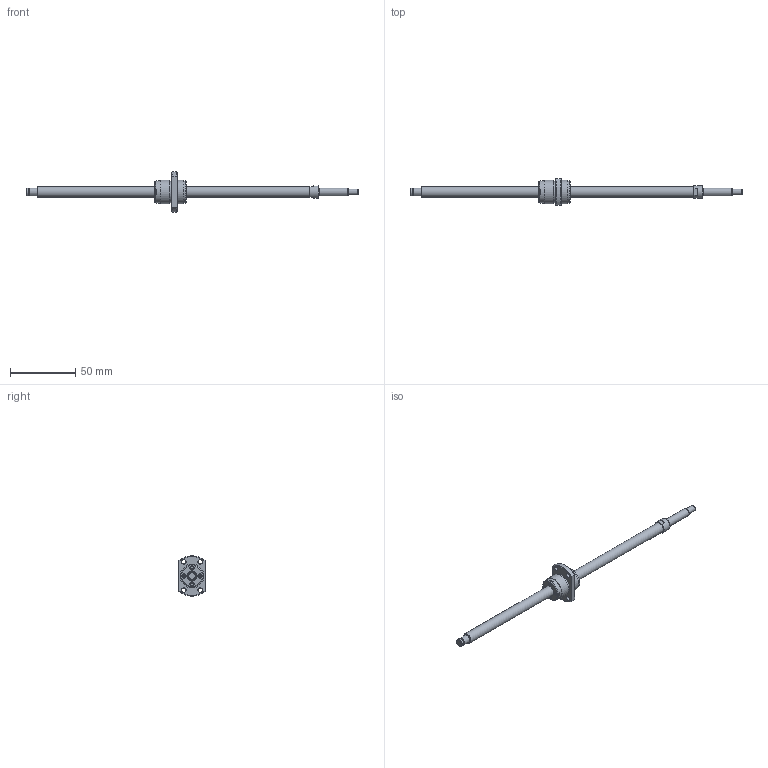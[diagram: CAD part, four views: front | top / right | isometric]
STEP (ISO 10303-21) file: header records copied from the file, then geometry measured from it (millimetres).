
FILE_DESCRIPTION(/* description */ ('STEP AP203'),/* implementation_level */ '2;1');
FILE_NAME(/* name */ 'BNK0810-3GT+255LC5Y(114)',/* time_stamp */ '2024-07-08T03:20:05+02:00',/* author */ ('License CC BY-ND 4.0'),/* organization */ ('CADENAS'),/* preprocessor_version */ 'ST-DEVELOPER v19.3',/* originating_system */ 'PARTsolutions',/* authorisation */ ' ');
FILE_SCHEMA (('CONFIG_CONTROL_DESIGN'));
Length unit declared in the file: millimetre
Products named in the file (3): BNK0810-3GT+255LC5Y(114); BNK 0810-3GT+255LC5Y Shaft; BNK 0810-3GT+255LC5Y Nut
Assembly tree (2 placements, depth 2):
  BNK0810-3GT+255LC5Y(114)
    BNK 0810-3GT+255LC5Y Shaft
    BNK 0810-3GT+255LC5Y Nut
Bounding box: 255 x 20 x 30.91 mm (x, y, z)
Volume: 17704.3 mm3; surface area: 9649.8 mm2
Topology: 2 solids, 2 shells, 112 faces, 256 edges, 166 vertices
Faces by surface type: plane 66, cylinder 27, cone 13, torus 6
Full cylindrical faces by diameter (mm): 3 x4, 3.4 x4, 4.5 x1, 5.7 x1, 6 x3, 8 x2, 9.5 x1, 16.2 x1, 17 x2, 18 x2
Entity records: 3085 total; most frequent: CARTESIAN_POINT 549, DIRECTION 520, ORIENTED_EDGE 444, EDGE_CURVE 222, AXIS2_PLACEMENT_3D 199, EDGE_LOOP 172, FACE_BOUND 172, VERTEX_POINT 164
